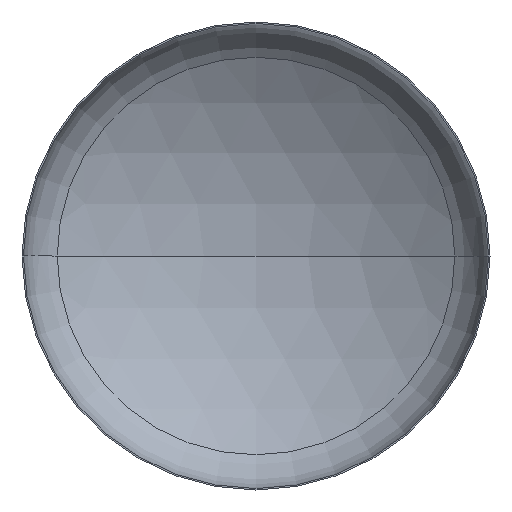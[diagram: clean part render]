
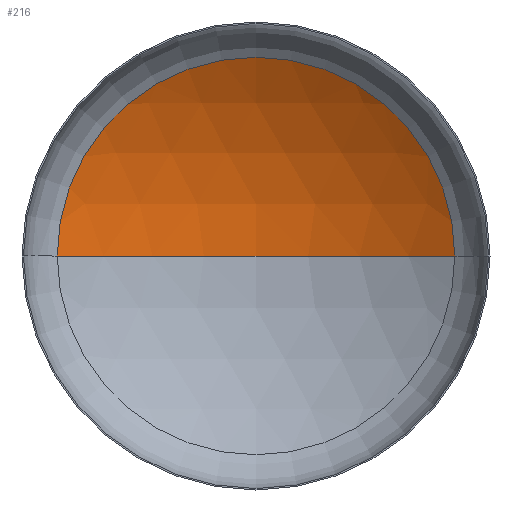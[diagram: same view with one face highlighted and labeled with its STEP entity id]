
A CAD part, front view. The second image highlights one B-rep face of the part: STEP entity #216.
In plain terms, the highlighted spherical face has radius 6400 mm.
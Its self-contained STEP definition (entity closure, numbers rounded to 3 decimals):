
#35 = VERTEX_POINT ( 'NONE', #327 ) ;
#47 = VERTEX_POINT ( 'NONE', #278 ) ;
#52 = EDGE_CURVE ( 'NONE', #47, #92, #238, .T. ) ;
#53 = EDGE_CURVE ( 'NONE', #35, #47, #358, .T. ) ;
#56 = ORIENTED_EDGE ( 'NONE', *, *, #53, .T. ) ;
#60 = EDGE_CURVE ( 'NONE', #35, #92, #296, .T. ) ;
#61 = ORIENTED_EDGE ( 'NONE', *, *, #60, .F. ) ;
#78 = ORIENTED_EDGE ( 'NONE', *, *, #52, .T. ) ;
#92 = VERTEX_POINT ( 'NONE', #231 ) ;
#125 = EDGE_LOOP ( 'NONE', ( #61, #56, #78 ) ) ;
#133 = DIRECTION ( 'NONE',  ( 0., 0., -1. ) ) ;
#171 = DIRECTION ( 'NONE',  ( 0., 0., -1. ) ) ;
#173 = DIRECTION ( 'NONE',  ( -1., 0., 0. ) ) ;
#184 = CARTESIAN_POINT ( 'NONE',  ( 0., -4306.081, 0. ) ) ;
#190 = CARTESIAN_POINT ( 'NONE',  ( 0., -4306.081, 0. ) ) ;
#194 = DIRECTION ( 'NONE',  ( 0., -1., 0. ) ) ;
#195 = DIRECTION ( 'NONE',  ( 1., 0., 0. ) ) ;
#197 = CARTESIAN_POINT ( 'NONE',  ( 0., 1117.308, 0. ) ) ;
#212 = AXIS2_PLACEMENT_3D ( 'NONE', #190, #133, #308 ) ;
#216 = ADVANCED_FACE ( 'NONE', ( #328 ), #263, .F. ) ;
#231 = CARTESIAN_POINT ( 'NONE',  ( -3398.066, 1117.308, 0. ) ) ;
#238 = CIRCLE ( 'NONE', #329, 3398.066 ) ;
#263 = SPHERICAL_SURFACE ( 'NONE', #212, 6400. ) ;
#278 = CARTESIAN_POINT ( 'NONE',  ( 3398.066, 1117.308, 0. ) ) ;
#296 = CIRCLE ( 'NONE', #362, 6400. ) ;
#308 = DIRECTION ( 'NONE',  ( -1., 0., 0. ) ) ;
#327 = CARTESIAN_POINT ( 'NONE',  ( 0., 2093.919, 0. ) ) ;
#328 = FACE_OUTER_BOUND ( 'NONE', #125, .T. ) ;
#329 = AXIS2_PLACEMENT_3D ( 'NONE', #197, #194, #195 ) ;
#331 = DIRECTION ( 'NONE',  ( 1., 0., 0. ) ) ;
#333 = DIRECTION ( 'NONE',  ( 0., 0., 1. ) ) ;
#338 = CARTESIAN_POINT ( 'NONE',  ( 0., -4306.081, 0. ) ) ;
#346 = AXIS2_PLACEMENT_3D ( 'NONE', #184, #171, #173 ) ;
#358 = CIRCLE ( 'NONE', #346, 6400. ) ;
#362 = AXIS2_PLACEMENT_3D ( 'NONE', #338, #333, #331 ) ;
